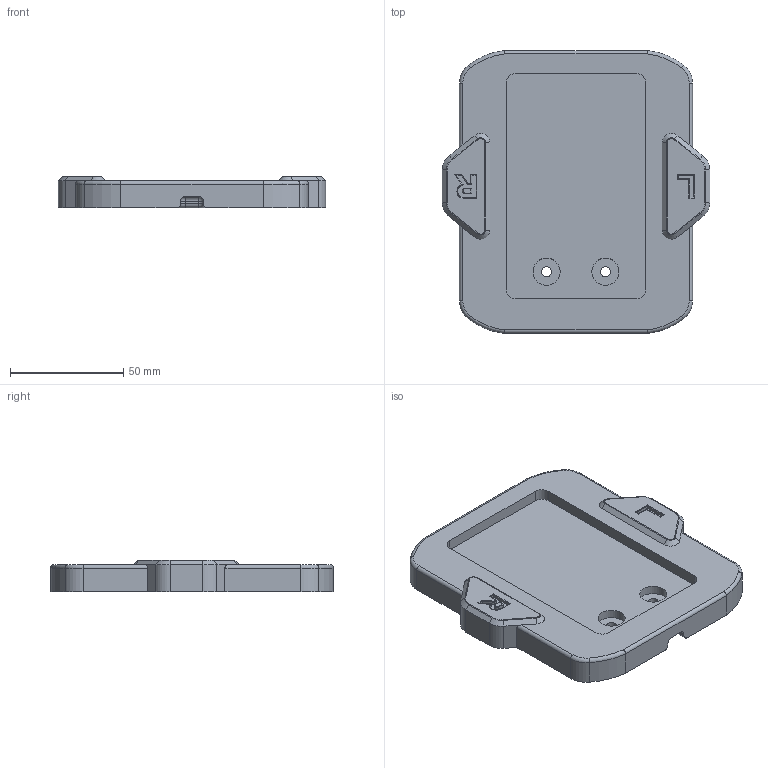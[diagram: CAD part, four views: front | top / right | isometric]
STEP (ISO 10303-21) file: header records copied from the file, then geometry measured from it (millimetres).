
FILE_DESCRIPTION(/* description */ (''),/* implementation_level */ '2;1');
FILE_NAME(/* name */ 'Center Click Plate.stp',/* time_stamp */ '2025-08-27T00:59:33+09:00',/* author */ (''),/* organization */ (''),/* preprocessor_version */ 'ST-DEVELOPER v11',/* originating_system */ 'SIEMENS PLM Software NX 7.5',/* authorisation */ '');
FILE_SCHEMA (('CONFIG_CONTROL_DESIGN'));
Length unit declared in the file: millimetre
Products named in the file (1): gyun8D5Clm04
Bounding box: 118.16 x 125 x 14 mm (x, y, z)
Volume: 124046.2 mm3; surface area: 33528.9 mm2
Topology: 1 solids, 1 shells, 142 faces, 340 edges, 204 vertices
Faces by surface type: cylinder 53, plane 49, torus 18, cone 8, extrusion 6, bspline 6, sphere 2
Full cylindrical faces by diameter (mm): 4.4 x2, 12 x2
Entity records: 4768 total; most frequent: CARTESIAN_POINT 1449, DIRECTION 681, ORIENTED_EDGE 662, EDGE_CURVE 331, AXIS2_PLACEMENT_3D 254, VERTEX_POINT 201, VECTOR 173, LINE 167
